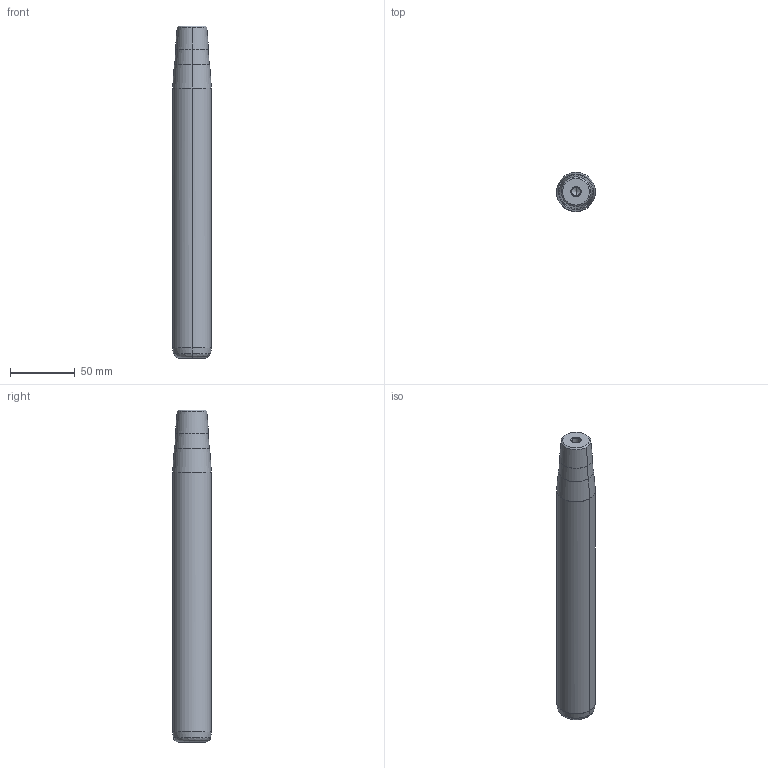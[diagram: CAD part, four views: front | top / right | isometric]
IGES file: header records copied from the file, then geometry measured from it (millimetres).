
Start section: START RECORD GO HERE.
Global section: file name: 722-30x224x257.igs; native system: DASSAULT SYSTEMES CATIA V5 R20 - www.3ds.com; preprocessor: CATIA Version 5 Release 20 ; author: Utente; organization: NB04-ASUS; date: 20210108.171704; units: millimetre
Bounding box: 30 x 30 x 257 mm (x, y, z)
Surface area: 25637.2 mm2 (no closed solid volume)
Topology: 0 solids, 0 shells, 32 faces, 192 edges, 188 vertices
Faces by surface type: revolution 30, plane 2
